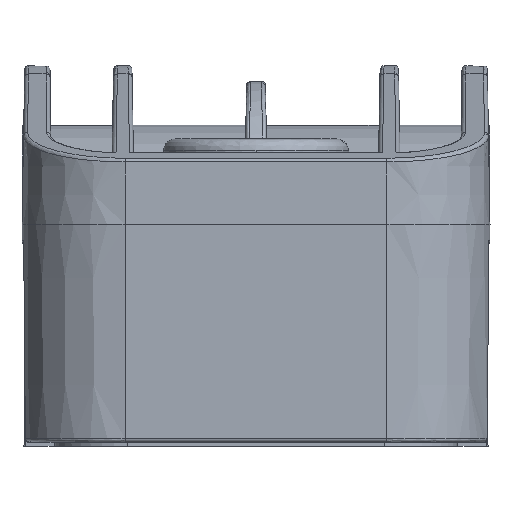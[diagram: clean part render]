
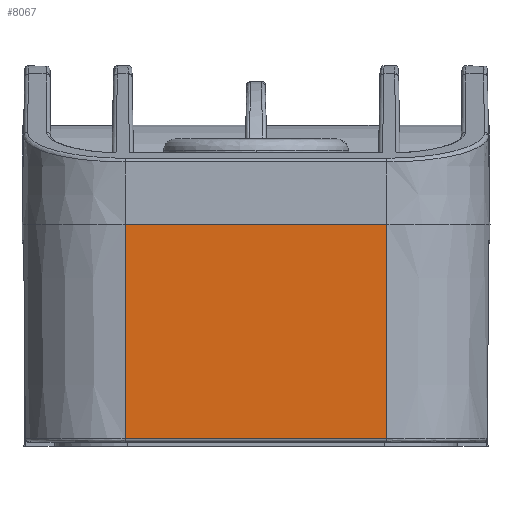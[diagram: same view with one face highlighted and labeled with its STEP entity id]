
A CAD part, front view. The second image highlights one B-rep face of the part: STEP entity #8067.
In plain terms, the highlighted planar face has unit normal (0, -1, -0.009).
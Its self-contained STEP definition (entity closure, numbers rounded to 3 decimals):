
#2841 = LINE ( 'NONE', #2861, #2872 ) ;
#2861 = CARTESIAN_POINT ( 'NONE',  ( 16.5, -48.764, -27.004 ) ) ;
#2872 = VECTOR ( 'NONE', #2981, 1000. ) ;
#2981 = DIRECTION ( 'NONE',  ( 1., 0., 0. ) ) ;
#3936 = CARTESIAN_POINT ( 'NONE',  ( -16.5, -48.764, -27.004 ) ) ;
#4436 = DIRECTION ( 'NONE',  ( 0., 0.009, -1. ) ) ;
#4437 = VECTOR ( 'NONE', #4436, 1000. ) ;
#4438 = CARTESIAN_POINT ( 'NONE',  ( 16.5, -49., 0. ) ) ;
#4442 = LINE ( 'NONE', #4438, #4437 ) ;
#7531 = EDGE_CURVE ( 'NONE', #7958, #7940, #2841, .T. ) ;
#7848 = EDGE_CURVE ( 'NONE', #7878, #7850, #16436, .T. ) ;
#7850 = VERTEX_POINT ( 'NONE', #16433 ) ;
#7878 = VERTEX_POINT ( 'NONE', #16432 ) ;
#7903 = EDGE_CURVE ( 'NONE', #7958, #7850, #16627, .T. ) ;
#7940 = VERTEX_POINT ( 'NONE', #16754 ) ;
#7958 = VERTEX_POINT ( 'NONE', #3936 ) ;
#8035 = EDGE_LOOP ( 'NONE', ( #8065, #8069, #8071, #8070 ) ) ;
#8065 = ORIENTED_EDGE ( 'NONE', *, *, #8148, .F. ) ;
#8067 = ADVANCED_FACE ( 'NONE', ( #17067 ), #17005, .T. ) ;
#8069 = ORIENTED_EDGE ( 'NONE', *, *, #7848, .T. ) ;
#8070 = ORIENTED_EDGE ( 'NONE', *, *, #7531, .T. ) ;
#8071 = ORIENTED_EDGE ( 'NONE', *, *, #7903, .F. ) ;
#8148 = EDGE_CURVE ( 'NONE', #7878, #7940, #4442, .T. ) ;
#16432 = CARTESIAN_POINT ( 'NONE',  ( 16.5, -49., 0. ) ) ;
#16433 = CARTESIAN_POINT ( 'NONE',  ( -16.5, -49., 0. ) ) ;
#16435 = CARTESIAN_POINT ( 'NONE',  ( 16.5, -49., 0. ) ) ;
#16436 = LINE ( 'NONE', #16435, #16465 ) ;
#16464 = DIRECTION ( 'NONE',  ( -1., 0., 0. ) ) ;
#16465 = VECTOR ( 'NONE', #16464, 1000. ) ;
#16626 = CARTESIAN_POINT ( 'NONE',  ( -16.5, -49., 0. ) ) ;
#16627 = LINE ( 'NONE', #16626, #16652 ) ;
#16651 = DIRECTION ( 'NONE',  ( 0., -0.009, 1. ) ) ;
#16652 = VECTOR ( 'NONE', #16651, 1000. ) ;
#16754 = CARTESIAN_POINT ( 'NONE',  ( 16.5, -48.764, -27.004 ) ) ;
#17002 = AXIS2_PLACEMENT_3D ( 'NONE', #17145, #17143, #17140 ) ;
#17005 = PLANE ( 'NONE',  #17002 ) ;
#17067 = FACE_OUTER_BOUND ( 'NONE', #8035, .T. ) ;
#17140 = DIRECTION ( 'NONE',  ( 0., 0.009, -1. ) ) ;
#17143 = DIRECTION ( 'NONE',  ( 0., -1., -0.009 ) ) ;
#17145 = CARTESIAN_POINT ( 'NONE',  ( 16.5, -49., 0. ) ) ;
